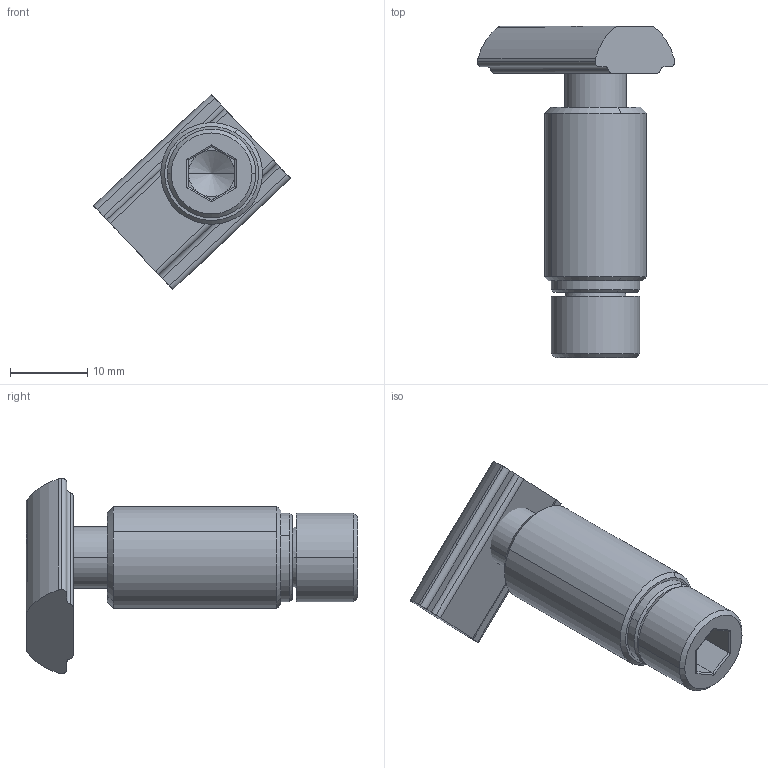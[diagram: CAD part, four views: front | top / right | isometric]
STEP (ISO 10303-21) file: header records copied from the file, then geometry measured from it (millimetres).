
FILE_DESCRIPTION(('STEP AP214'),'1');
FILE_NAME('C:/TPO v2/SharedFS/Outgoing/fath_099h103.stp','2016-08-02T07:28:06',('TraceParts'),('TraceParts S.A.'),'Spatial InterOp 3D',' ',' ');
FILE_SCHEMA(('automotive_design'));
Length unit declared in the file: millimetre
Products named in the file (3): fath_099h103_1; fath_099h103_2; fath_099h103_3
Bounding box: 25.56 x 43 x 25.33 mm (x, y, z)
Volume: 5395 mm3; surface area: 4090.3 mm2
Topology: 3 solids, 3 shells, 94 faces, 238 edges, 150 vertices
Faces by surface type: cylinder 39, plane 33, cone 18, bspline 4
Entity records: 4036 total; most frequent: CARTESIAN_POINT 916, DIRECTION 509, ORIENTED_EDGE 472, EDGE_CURVE 236, AXIS2_PLACEMENT_3D 201, VERTEX_POINT 150, CIRCLE 108, LINE 107
